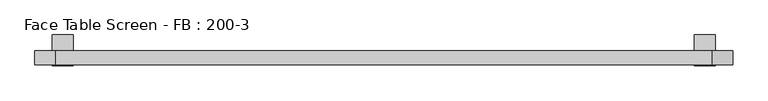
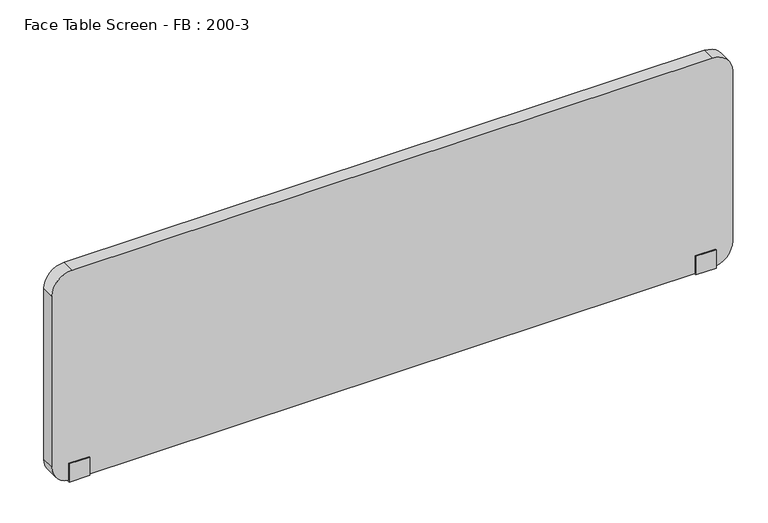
"""IFC4 building model written with IfcOpenShell, lengths in millimetres: furniture geometry, Face Table Screen - FB : 200-3."""

from ifc_helpers import new_model, si_unit, point, frame, frame_2d, origin, place, context, project, spatial, polyline, circle_curve, trimmed, segment, composite_curve, outline, extrude, source, transform, mapped, element, save


def face_table_screen_fb_200_3_0b80e95a(model_context):
    return source(origin(), model_context, "Body", "SweptSolid", [
        extrude(outline(polyline([(-42.9999947, -156.0), (-42.9999997, -99.0433898), (-40.0, -99.0433898), (-40.0, -153.0), (0.0, -153.0), (0.0, -22.0), (45.0, -22.0), (45.0, -25.0433898), (3.0000062, -25.0433898), (2.9999947, -156.0), (-42.9999947, -156.0)])), frame((909.9863751, 0.0, 0.0), z_axis=(1.0, 0.0, 0.0), x_axis=(0.0, 1.0, 0.0)), (0.0, 0.0, 1.0), 60.0),
        extrude(outline(polyline([(-42.9999947, -156.0), (-42.9999997, -99.0433898), (-40.0, -99.0433898), (-40.0, -153.0), (0.0, -153.0), (0.0, -22.0), (45.0, -22.0), (45.0, -25.0433898), (3.0000062, -25.0433898), (2.9999947, -156.0), (-42.9999947, -156.0)])), frame((-930.0136249, 0.0, 0.0), z_axis=(1.0, 0.0, 0.0), x_axis=(0.0, 1.0, 0.0)), (0.0, 0.0, 1.0), 60.0),
        extrude(outline(composite_curve([segment(polyline([(497.0, 959.9863751), (497.0, -920.0136249)]), True, "CONTINUOUS"), segment(trimmed(circle_curve(frame_2d((437.0, -920.0136249)), 60.0), [point((497.0, -920.0136249))], [point((437.0, -980.0136249))], False, "CARTESIAN"), True, "CONTINUOUS"), segment(polyline([(437.0, -980.0136249), (-93.0, -980.0136249)]), True, "CONTINUOUS"), segment(trimmed(circle_curve(frame_2d((-93.0, -920.0136249)), 60.0), [point((-93.0, -980.0136249))], [point((-153.0, -920.0136249))], False, "CARTESIAN"), True, "CONTINUOUS"), segment(polyline([(-153.0, -920.0136249), (-153.0, 959.9863751)]), True, "CONTINUOUS"), segment(trimmed(circle_curve(frame_2d((-93.0, 959.9863751)), 60.0), [point((-153.0, 959.9863751))], [point((-93.0, 1019.9863751))], False, "CARTESIAN"), True, "CONTINUOUS"), segment(polyline([(-93.0, 1019.9863751), (437.0, 1019.9863751)]), True, "CONTINUOUS"), segment(trimmed(circle_curve(frame_2d((437.0, 959.9863751)), 60.0), [point((437.0, 1019.9863751))], [point((497.0, 959.9863751))], False, "CARTESIAN"), True, "CONTINUOUS")], self_intersect=False)), frame((0.0, -40.0, 0.0), z_axis=(0.0, 1.0, 0.0), x_axis=(0.0, 0.0, 1.0)), (0.0, 0.0, 1.0), 40.0),
    ])


if __name__ == "__main__":
    model = new_model("IFC4")
    model_context = context("Model", 3, world=origin())
    ifc_project = project(units=[si_unit("LENGTHUNIT", "METRE", prefix="MILLI")], contexts=[model_context])
    site = spatial("IfcSite", under=ifc_project)
    building = spatial("IfcBuilding", under=site)
    placement = place(None, origin())
    face_table_screen_fb_200_3_shape = face_table_screen_fb_200_3_0b80e95a(model_context)
    element("IfcFurniture", 1, ObjectType="Face Table Screen - FB : 200-3", at=placement, inside=building, context=model_context, shape_type="MappedRepresentation", body=[
        mapped(face_table_screen_fb_200_3_shape, transform((0.0, 0.0, 0.0), x_axis=(1.0, 0.0, 0.0), y_axis=(0.0, 1.0, 0.0), z_axis=(0.0, 0.0, 1.0))),
    ])
    save(model, "model.ifc")
